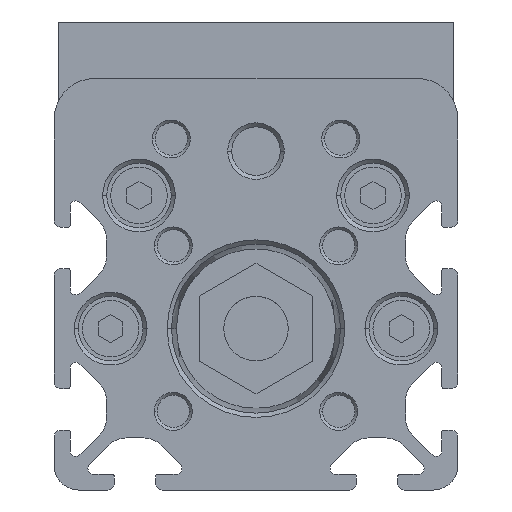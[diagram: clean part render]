
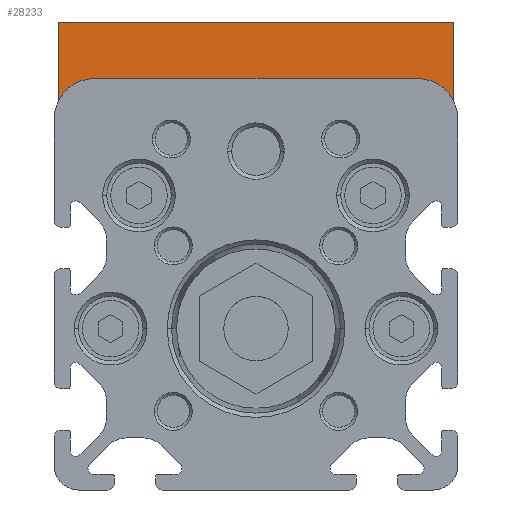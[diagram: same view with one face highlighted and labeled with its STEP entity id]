
A CAD part, left-side view. The second image highlights one B-rep face of the part: STEP entity #28233.
In plain terms, the highlighted planar face has unit normal (-1, 0, 0).
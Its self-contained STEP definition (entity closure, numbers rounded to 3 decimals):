
#965 = DIRECTION ( 'NONE',  ( 0., 0., 1. ) ) ;
#1546 = LINE ( 'NONE', #22012, #17513 ) ;
#1558 = VERTEX_POINT ( 'NONE', #27504 ) ;
#3481 = DIRECTION ( 'NONE',  ( -1., 0., 0. ) ) ;
#4385 = VERTEX_POINT ( 'NONE', #6562 ) ;
#4441 = CARTESIAN_POINT ( 'NONE',  ( -27.5, -24.5, 18. ) ) ;
#4929 = VECTOR ( 'NONE', #5050, 1000. ) ;
#5050 = DIRECTION ( 'NONE',  ( 0., -1., 0. ) ) ;
#5758 = CARTESIAN_POINT ( 'NONE',  ( -27.5, 0., -20. ) ) ;
#5842 = EDGE_CURVE ( 'NONE', #14640, #4385, #9454, .T. ) ;
#5976 = DIRECTION ( 'NONE',  ( 0., 1., 0. ) ) ;
#6130 = LINE ( 'NONE', #22626, #25618 ) ;
#6562 = CARTESIAN_POINT ( 'NONE',  ( -27.5, -24.5, 0. ) ) ;
#6793 = ORIENTED_EDGE ( 'NONE', *, *, #5842, .F. ) ;
#7771 = DIRECTION ( 'NONE',  ( 0., 0., -1. ) ) ;
#8175 = ORIENTED_EDGE ( 'NONE', *, *, #27171, .F. ) ;
#9454 = LINE ( 'NONE', #12171, #29292 ) ;
#12171 = CARTESIAN_POINT ( 'NONE',  ( -27.5, -24.5, 0.7 ) ) ;
#14640 = VERTEX_POINT ( 'NONE', #4441 ) ;
#15938 = VERTEX_POINT ( 'NONE', #29943 ) ;
#17278 = PLANE ( 'NONE',  #18557 ) ;
#17513 = VECTOR ( 'NONE', #965, 1000. ) ;
#18557 = AXIS2_PLACEMENT_3D ( 'NONE', #5758, #3481, #27393 ) ;
#19029 = EDGE_LOOP ( 'NONE', ( #6793, #19267, #8175, #25139 ) ) ;
#19267 = ORIENTED_EDGE ( 'NONE', *, *, #23717, .T. ) ;
#19552 = FACE_OUTER_BOUND ( 'NONE', #19029, .T. ) ;
#21108 = CARTESIAN_POINT ( 'NONE',  ( -27.5, 22., 0. ) ) ;
#22012 = CARTESIAN_POINT ( 'NONE',  ( -27.5, 24.5, 0. ) ) ;
#22626 = CARTESIAN_POINT ( 'NONE',  ( -27.5, 24.5, 18. ) ) ;
#23717 = EDGE_CURVE ( 'NONE', #14640, #1558, #6130, .T. ) ;
#23819 = LINE ( 'NONE', #21108, #4929 ) ;
#25139 = ORIENTED_EDGE ( 'NONE', *, *, #27113, .T. ) ;
#25618 = VECTOR ( 'NONE', #5976, 1000. ) ;
#27113 = EDGE_CURVE ( 'NONE', #15938, #4385, #23819, .T. ) ;
#27171 = EDGE_CURVE ( 'NONE', #15938, #1558, #1546, .T. ) ;
#27393 = DIRECTION ( 'NONE',  ( 0., -1., 0. ) ) ;
#27504 = CARTESIAN_POINT ( 'NONE',  ( -27.5, 24.5, 18. ) ) ;
#28233 = ADVANCED_FACE ( 'NONE', ( #19552 ), #17278, .T. ) ;
#29292 = VECTOR ( 'NONE', #7771, 1000. ) ;
#29943 = CARTESIAN_POINT ( 'NONE',  ( -27.5, 24.5, 0. ) ) ;
